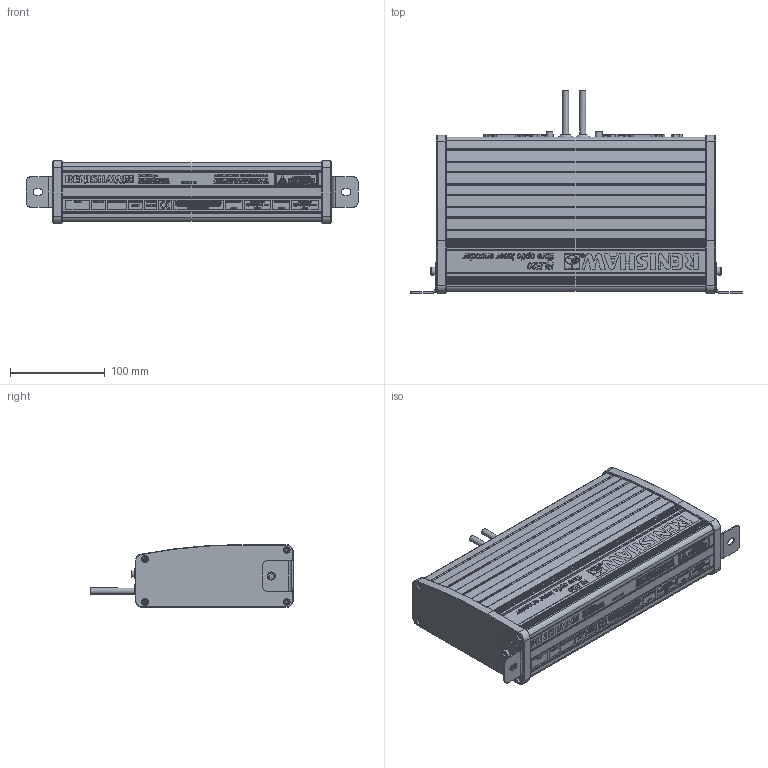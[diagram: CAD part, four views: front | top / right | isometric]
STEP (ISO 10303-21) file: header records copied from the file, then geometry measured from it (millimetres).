
FILE_DESCRIPTION( ( 'Unknown' ), '1' );
FILE_NAME( 'C:/RLU_V.stp', 'Unknown', ( 'Unknown' ), ( 'Unknown' ), 'XStep 1.0', 'Unknown', ' ' );
FILE_SCHEMA( ( 'CONFIG_CONTROL_DESIGN' ) );
Length unit declared in the file: millimetre
Products named in the file (1): 1
Bounding box: 350 x 213.34 x 66.3 mm (x, y, z)
Volume: 2753024 mm3; surface area: 189697.7 mm2
Topology: 1 solids, 8 shells, 9926 faces, 26468 edges, 17604 vertices
Faces by surface type: plane 6395, extrusion 2708, cylinder 623, cone 162, torus 21, sphere 15, bspline 2
Full cylindrical faces by diameter (mm): 0.8 x30, 1 x60, 1.7 x1, 1.9 x1, 2.1 x1, 2.35 x8, 2.5 x4, 3.4 x2, 3.8 x2, 4.5 x6, 5 x2, 5.5 x10, 5.9 x2, 6.35 x2, 6.8 x7, 7 x8, 7.1 x2, 8 x2, 8.5 x9, 15 x2, 18 x1, 19.5 x1
Entity records: 314877 total; most frequent: CARTESIAN_POINT 77959, ORIENTED_EDGE 52272, DIRECTION 39289, EDGE_CURVE 26136, VECTOR 21659, LINE 18951, VERTEX_POINT 17525, EDGE_LOOP 11200
